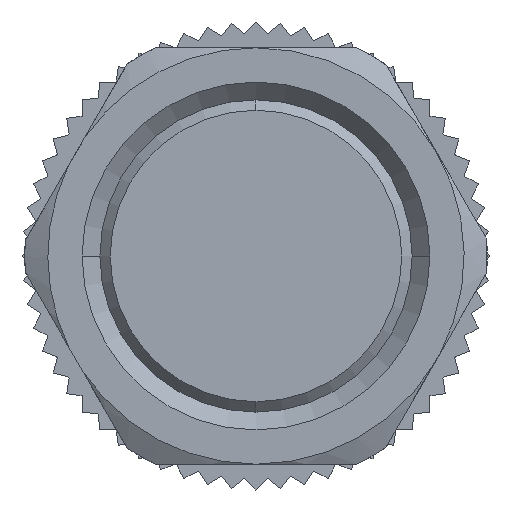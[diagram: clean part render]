
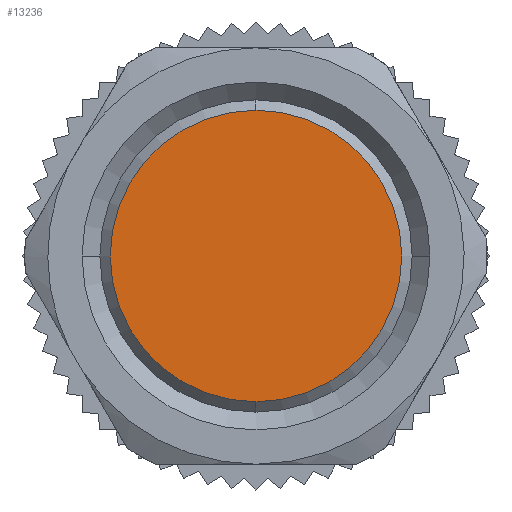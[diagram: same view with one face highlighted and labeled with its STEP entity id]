
A CAD part, front view. The second image highlights one B-rep face of the part: STEP entity #13236.
In plain terms, the highlighted planar face has unit normal (0, -1, 0).
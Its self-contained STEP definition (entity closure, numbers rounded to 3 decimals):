
#136 = DIRECTION ( 'NONE',  ( 0., -1., 0. ) ) ;
#2366 = DIRECTION ( 'NONE',  ( 0., 0., -1. ) ) ;
#2970 = CIRCLE ( 'NONE', #4349, 8.4 ) ;
#3056 = DIRECTION ( 'NONE',  ( 0., 0., -1. ) ) ;
#4349 = AXIS2_PLACEMENT_3D ( 'NONE', #5199, #136, #10523 ) ;
#4366 = DIRECTION ( 'NONE',  ( 0., -1., 0. ) ) ;
#4889 = VERTEX_POINT ( 'NONE', #12165 ) ;
#5199 = CARTESIAN_POINT ( 'NONE',  ( 0., -4.29, 0. ) ) ;
#5851 = FACE_OUTER_BOUND ( 'NONE', #16336, .T. ) ;
#6389 = EDGE_CURVE ( 'NONE', #4889, #16811, #2970, .T. ) ;
#6562 = DIRECTION ( 'NONE',  ( 0., -1., 0. ) ) ;
#6838 = ORIENTED_EDGE ( 'NONE', *, *, #11073, .T. ) ;
#8308 = AXIS2_PLACEMENT_3D ( 'NONE', #9853, #4366, #3056 ) ;
#8516 = CIRCLE ( 'NONE', #11020, 8.4 ) ;
#9853 = CARTESIAN_POINT ( 'NONE',  ( -4.2, -4.29, 0. ) ) ;
#9912 = ORIENTED_EDGE ( 'NONE', *, *, #6389, .T. ) ;
#10523 = DIRECTION ( 'NONE',  ( 0., 0., -1. ) ) ;
#11020 = AXIS2_PLACEMENT_3D ( 'NONE', #14507, #6562, #2366 ) ;
#11073 = EDGE_CURVE ( 'NONE', #16811, #4889, #8516, .T. ) ;
#12165 = CARTESIAN_POINT ( 'NONE',  ( 0., -4.29, -8.4 ) ) ;
#13236 = ADVANCED_FACE ( 'NONE', ( #5851 ), #16324, .T. ) ;
#13815 = CARTESIAN_POINT ( 'NONE',  ( 0., -4.29, 8.4 ) ) ;
#14507 = CARTESIAN_POINT ( 'NONE',  ( 0., -4.29, 0. ) ) ;
#16324 = PLANE ( 'NONE',  #8308 ) ;
#16336 = EDGE_LOOP ( 'NONE', ( #6838, #9912 ) ) ;
#16811 = VERTEX_POINT ( 'NONE', #13815 ) ;
